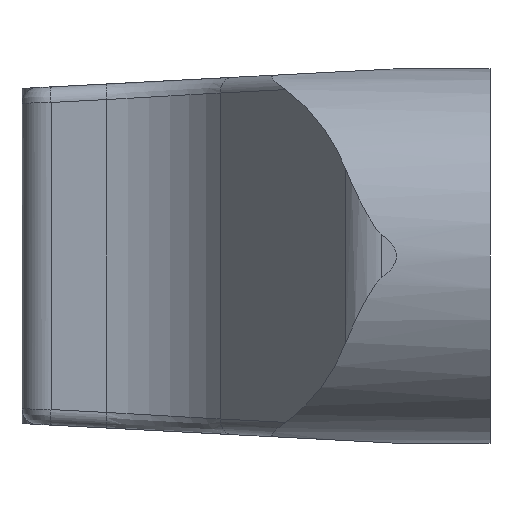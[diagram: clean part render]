
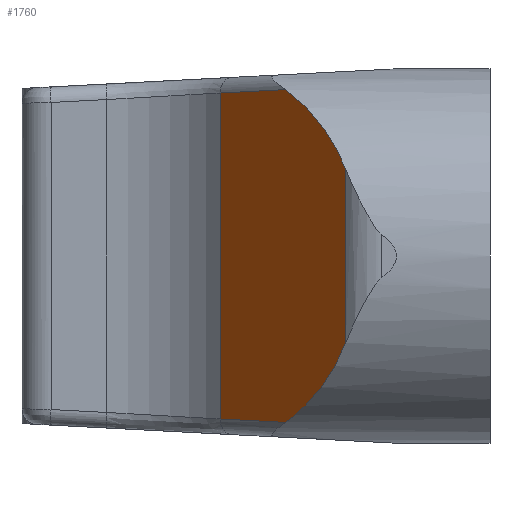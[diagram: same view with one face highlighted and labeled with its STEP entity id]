
A CAD part, left-side view. The second image highlights one B-rep face of the part: STEP entity #1760.
In plain terms, the highlighted planar face has unit normal (-0.602, 0.798, 0).
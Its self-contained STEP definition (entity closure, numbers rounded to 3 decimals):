
#12 = EDGE_CURVE ( 'NONE', #807, #194, #5604, .T. ) ;
#194 = VERTEX_POINT ( 'NONE', #2871 ) ;
#425 = ORIENTED_EDGE ( 'NONE', *, *, #12, .F. ) ;
#501 = VERTEX_POINT ( 'NONE', #2533 ) ;
#581 = CARTESIAN_POINT ( 'NONE',  ( 2.516, 4.113, -7.764 ) ) ;
#752 = VERTEX_POINT ( 'NONE', #6332 ) ;
#807 = VERTEX_POINT ( 'NONE', #5717 ) ;
#823 = ORIENTED_EDGE ( 'NONE', *, *, #2205, .T. ) ;
#840 = CARTESIAN_POINT ( 'NONE',  ( 1.361, 3.242, 5.551 ) ) ;
#1063 = CARTESIAN_POINT ( 'NONE',  ( 1.361, 3.242, -5.551 ) ) ;
#1330 = CARTESIAN_POINT ( 'NONE',  ( 8.684, 8.764, -10.581 ) ) ;
#1373 = CARTESIAN_POINT ( 'NONE',  ( 6.504, 7.12, -10.667 ) ) ;
#1515 = DIRECTION ( 'NONE',  ( 0.798, 0.602, 0.032 ) ) ;
#1523 = VECTOR ( 'NONE', #4273, 1000. ) ;
#1760 = ADVANCED_FACE ( 'NONE', ( #3105 ), #5141, .F. ) ;
#1797 = VECTOR ( 'NONE', #1515, 1000. ) ;
#1961 = LINE ( 'NONE', #5750, #1523 ) ;
#2024 = LINE ( 'NONE', #4628, #4535 ) ;
#2081 = EDGE_CURVE ( 'NONE', #752, #807, #5888, .T. ) ;
#2121 = DIRECTION ( 'NONE',  ( -0.798, -0.602, 0.032 ) ) ;
#2205 = EDGE_CURVE ( 'NONE', #6229, #194, #2257, .T. ) ;
#2210 = DIRECTION ( 'NONE',  ( 0., 0., -1. ) ) ;
#2257 = LINE ( 'NONE', #5713, #4772 ) ;
#2533 = CARTESIAN_POINT ( 'NONE',  ( 1.361, 3.242, 5.551 ) ) ;
#2594 = CARTESIAN_POINT ( 'NONE',  ( 12.05, 11.302, 12. ) ) ;
#2612 = ORIENTED_EDGE ( 'NONE', *, *, #5330, .F. ) ;
#2752 = CARTESIAN_POINT ( 'NONE',  ( 6.504, 7.12, 10.667 ) ) ;
#2761 = EDGE_LOOP ( 'NONE', ( #823, #425, #3554, #2612, #5332, #5566 ) ) ;
#2817 = CARTESIAN_POINT ( 'NONE',  ( 4.285, 5.447, -9.524 ) ) ;
#2871 = CARTESIAN_POINT ( 'NONE',  ( 12.05, 11.302, -10.448 ) ) ;
#3050 = AXIS2_PLACEMENT_3D ( 'NONE', #2594, #4797, #5107 ) ;
#3105 = FACE_OUTER_BOUND ( 'NONE', #2761, .T. ) ;
#3554 = ORIENTED_EDGE ( 'NONE', *, *, #2081, .F. ) ;
#3773 = CARTESIAN_POINT ( 'NONE',  ( 2.516, 4.113, 7.764 ) ) ;
#3800 = CARTESIAN_POINT ( 'NONE',  ( 6.504, 7.12, 10.667 ) ) ;
#4161 = EDGE_CURVE ( 'NONE', #5406, #501, #5007, .T. ) ;
#4273 = DIRECTION ( 'NONE',  ( 0., 0., -1. ) ) ;
#4535 = VECTOR ( 'NONE', #2121, 1000. ) ;
#4628 = CARTESIAN_POINT ( 'NONE',  ( 12.026, 11.284, 10.449 ) ) ;
#4772 = VECTOR ( 'NONE', #2210, 1000. ) ;
#4797 = DIRECTION ( 'NONE',  ( 0.602, -0.798, 0. ) ) ;
#4957 = CARTESIAN_POINT ( 'NONE',  ( 12.05, 11.302, 10.448 ) ) ;
#5007 =( BOUNDED_CURVE ( )  B_SPLINE_CURVE ( 3, ( #2752, #5740, #3773, #840 ),
 .UNSPECIFIED., .F., .T. ) 
 B_SPLINE_CURVE_WITH_KNOTS ( ( 4, 4 ),
 ( 5.188, 5.802 ),
 .UNSPECIFIED. ) 
 CURVE ( )  GEOMETRIC_REPRESENTATION_ITEM ( )  RATIONAL_B_SPLINE_CURVE ( ( 1., 0.969, 0.969, 1. ) ) 
 REPRESENTATION_ITEM ( '' )  );
#5107 = DIRECTION ( 'NONE',  ( 0.798, 0.602, 0. ) ) ;
#5141 = PLANE ( 'NONE',  #3050 ) ;
#5330 = EDGE_CURVE ( 'NONE', #501, #752, #1961, .T. ) ;
#5332 = ORIENTED_EDGE ( 'NONE', *, *, #4161, .F. ) ;
#5406 = VERTEX_POINT ( 'NONE', #3800 ) ;
#5566 = ORIENTED_EDGE ( 'NONE', *, *, #5685, .F. ) ;
#5604 = LINE ( 'NONE', #1330, #1797 ) ;
#5685 = EDGE_CURVE ( 'NONE', #6229, #5406, #2024, .T. ) ;
#5713 = CARTESIAN_POINT ( 'NONE',  ( 12.05, 11.302, 12. ) ) ;
#5717 = CARTESIAN_POINT ( 'NONE',  ( 6.504, 7.12, -10.667 ) ) ;
#5740 = CARTESIAN_POINT ( 'NONE',  ( 4.285, 5.447, 9.524 ) ) ;
#5750 = CARTESIAN_POINT ( 'NONE',  ( 1.361, 3.242, 12. ) ) ;
#5888 =( BOUNDED_CURVE ( )  B_SPLINE_CURVE ( 3, ( #1063, #581, #2817, #1373 ),
 .UNSPECIFIED., .F., .F. ) 
 B_SPLINE_CURVE_WITH_KNOTS ( ( 4, 4 ),
 ( 0.481, 1.095 ),
 .UNSPECIFIED. ) 
 CURVE ( )  GEOMETRIC_REPRESENTATION_ITEM ( )  RATIONAL_B_SPLINE_CURVE ( ( 1., 0.969, 0.969, 1. ) ) 
 REPRESENTATION_ITEM ( '' )  );
#6229 = VERTEX_POINT ( 'NONE', #4957 ) ;
#6332 = CARTESIAN_POINT ( 'NONE',  ( 1.361, 3.242, -5.551 ) ) ;
